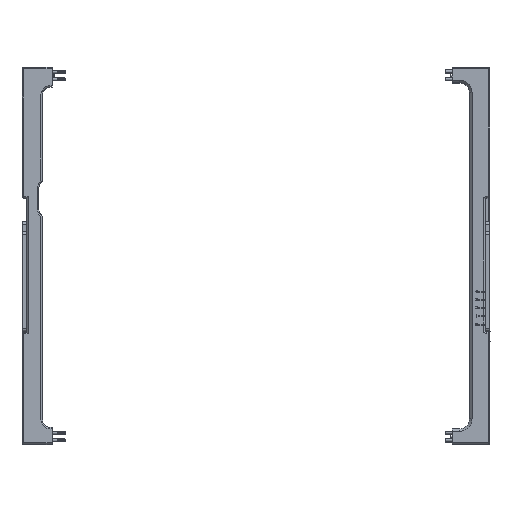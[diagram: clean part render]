
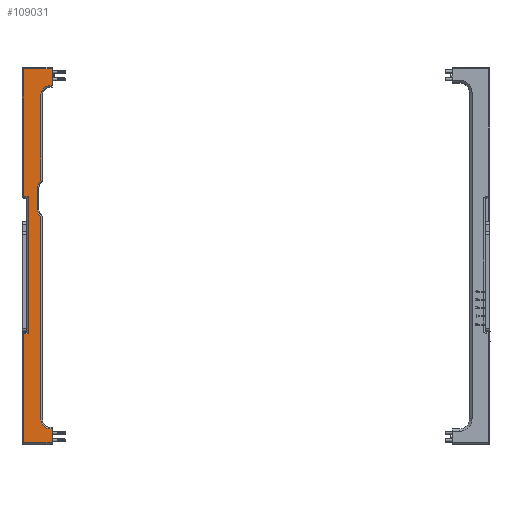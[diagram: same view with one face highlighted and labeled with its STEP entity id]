
A CAD part, top view. The second image highlights one B-rep face of the part: STEP entity #109031.
In plain terms, the highlighted planar face has unit normal (0, 0, 1).
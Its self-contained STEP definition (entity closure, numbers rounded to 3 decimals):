
#57192=DIRECTION('',(0.,1.,0.));
#57193=VECTOR('',#57192,28.7);
#57194=CARTESIAN_POINT('',(-410.5,-770.4,92.43));
#57195=LINE('',#57194,#57193);
#57726=DIRECTION('',(0.,1.,0.));
#57727=VECTOR('',#57726,33.7);
#57728=CARTESIAN_POINT('',(-410.5,-50.7,92.43));
#57729=LINE('',#57728,#57727);
#57826=DIRECTION('',(1.,0.,0.));
#57827=VECTOR('',#57826,4.5);
#57828=CARTESIAN_POINT('',(-415.,-50.7,
92.43));
#57829=LINE('',#57828,#57827);
#57830=CARTESIAN_POINT('',(-415.,-68.7,92.43));
#57831=DIRECTION('',(0.,0.,-1.));
#57832=DIRECTION('',(-1.,0.,0.));
#57833=AXIS2_PLACEMENT_3D('',#57830,#57831,#57832);
#57835=DIRECTION('',(0.,1.,0.));
#57836=VECTOR('',#57835,172.49);
#57837=CARTESIAN_POINT('',(-433.,-241.19,
92.43));
#57838=LINE('',#57837,#57836);
#57839=CARTESIAN_POINT('',(-435.,-241.19,92.43));
#57840=DIRECTION('',(0.,0.,1.));
#57841=DIRECTION('',(0.65,-0.76,0.));
#57842=AXIS2_PLACEMENT_3D('',#57839,#57840,#57841);
#57844=CARTESIAN_POINT('',(-422.,-256.389,92.43));
#57845=DIRECTION('',(0.,0.,-1.));
#57846=DIRECTION('',(-1.,0.,0.));
#57847=AXIS2_PLACEMENT_3D('',#57844,#57845,#57846);
#57849=DIRECTION('',(0.,1.,0.));
#57850=VECTOR('',#57849,44.623);
#57851=CARTESIAN_POINT('',(-440.,-301.011,
92.43));
#57852=LINE('',#57851,#57850);
#57853=CARTESIAN_POINT('',(-422.,-301.011,92.43));
#57854=DIRECTION('',(0.,0.,-1.));
#57855=DIRECTION('',(-0.65,-0.76,0.));
#57856=AXIS2_PLACEMENT_3D('',#57853,#57854,#57855);
#57858=CARTESIAN_POINT('',(-435.,-316.21,92.43));
#57859=DIRECTION('',(0.,0.,1.));
#57860=DIRECTION('',(1.,0.,0.));
#57861=AXIS2_PLACEMENT_3D('',#57858,#57859,#57860);
#57863=DIRECTION('',(0.,1.,0.));
#57864=VECTOR('',#57863,407.49);
#57865=CARTESIAN_POINT('',(-433.,-723.7,
92.43));
#57866=LINE('',#57865,#57864);
#57867=CARTESIAN_POINT('',(-415.,-723.7,92.43));
#57868=DIRECTION('',(0.,0.,-1.));
#57869=DIRECTION('',(0.,-1.,0.));
#57870=AXIS2_PLACEMENT_3D('',#57867,#57868,#57869);
#57872=DIRECTION('',(-1.,0.,0.));
#57873=VECTOR('',#57872,4.5);
#57874=CARTESIAN_POINT('',(-410.5,-741.7,92.43));
#57875=LINE('',#57874,#57873);
#57876=DIRECTION('',(1.,0.,0.));
#57877=VECTOR('',#57876,55.7);
#57878=CARTESIAN_POINT('',(-466.2,-770.4,
92.43));
#57879=LINE('',#57878,#57877);
#57880=CARTESIAN_POINT('',(-466.2,-768.4,92.43));
#57881=DIRECTION('',(0.,0.,1.));
#57882=DIRECTION('',(-1.,0.,0.));
#57883=AXIS2_PLACEMENT_3D('',#57880,#57881,#57882);
#57885=DIRECTION('',(0.,-1.,0.));
#57886=VECTOR('',#57885,216.05);
#57887=CARTESIAN_POINT('',(-468.2,-552.35,
92.43));
#57888=LINE('',#57887,#57886);
#57889=CARTESIAN_POINT('',(-466.2,-552.35,92.43));
#57890=DIRECTION('',(0.,0.,1.));
#57891=DIRECTION('',(0.,1.,0.));
#57892=AXIS2_PLACEMENT_3D('',#57889,#57890,#57891);
#57894=DIRECTION('',(-1.,0.,0.));
#57895=VECTOR('',#57894,8.);
#57896=CARTESIAN_POINT('',(-458.2,-550.35,92.43));
#57897=LINE('',#57896,#57895);
#57898=DIRECTION('',(0.,-1.,0.));
#57899=VECTOR('',#57898,276.);
#57900=CARTESIAN_POINT('',(-458.2,-274.35,92.43));
#57901=LINE('',#57900,#57899);
#57902=DIRECTION('',(-1.,0.,0.));
#57903=VECTOR('',#57902,8.);
#57904=CARTESIAN_POINT('',(-458.2,-274.35,92.43));
#57905=LINE('',#57904,#57903);
#57906=CARTESIAN_POINT('',(-466.2,-272.35,92.43));
#57907=DIRECTION('',(0.,0.,-1.));
#57908=DIRECTION('',(0.,-1.,0.));
#57909=AXIS2_PLACEMENT_3D('',#57906,#57907,#57908);
#57911=DIRECTION('',(0.,1.,0.));
#57912=VECTOR('',#57911,253.35);
#57913=CARTESIAN_POINT('',(-468.2,-272.35,
92.43));
#57914=LINE('',#57913,#57912);
#57915=CARTESIAN_POINT('',(-466.2,-19.,92.43));
#57916=DIRECTION('',(0.,0.,-1.));
#57917=DIRECTION('',(-1.,0.,0.));
#57918=AXIS2_PLACEMENT_3D('',#57915,#57916,#57917);
#57920=DIRECTION('',(1.,0.,0.));
#57921=VECTOR('',#57920,55.7);
#57922=CARTESIAN_POINT('',(-466.2,-17.,
92.43));
#57923=LINE('',#57922,#57921);
#86729=CARTESIAN_POINT('',(-458.2,-274.35,92.43));
#86730=CARTESIAN_POINT('',(-458.2,-550.35,92.43));
#86731=VERTEX_POINT('',#86729);
#86732=VERTEX_POINT('',#86730);
#86737=CARTESIAN_POINT('',(-466.2,-550.35,
92.43));
#86738=VERTEX_POINT('',#86737);
#86743=CARTESIAN_POINT('',(-466.2,-17.,
92.43));
#86744=CARTESIAN_POINT('',(-410.5,-17.,92.43));
#86745=VERTEX_POINT('',#86743);
#86746=VERTEX_POINT('',#86744);
#86751=CARTESIAN_POINT('',(-468.2,-272.35,
92.43));
#86752=CARTESIAN_POINT('',(-468.2,-19.,
92.43));
#86753=VERTEX_POINT('',#86751);
#86754=VERTEX_POINT('',#86752);
#86807=CARTESIAN_POINT('',(-466.2,-274.35,
92.43));
#86808=VERTEX_POINT('',#86807);
#87609=CARTESIAN_POINT('',(-410.5,-770.4,92.43));
#87610=VERTEX_POINT('',#87609);
#87611=CARTESIAN_POINT('',(-466.2,-770.4,
92.43));
#87612=VERTEX_POINT('',#87611);
#87613=CARTESIAN_POINT('',(-468.2,-768.4,92.43));
#87614=VERTEX_POINT('',#87613);
#87615=CARTESIAN_POINT('',(-468.2,-552.35,
92.43));
#87616=VERTEX_POINT('',#87615);
#87665=CARTESIAN_POINT('',(-410.5,-50.7,92.43));
#87667=VERTEX_POINT('',#87665);
#87671=CARTESIAN_POINT('',(-415.,-50.7,
92.43));
#87672=VERTEX_POINT('',#87671);
#87673=CARTESIAN_POINT('',(-433.,-68.7,92.43));
#87674=VERTEX_POINT('',#87673);
#87677=CARTESIAN_POINT('',(-433.,-241.19,
92.43));
#87678=VERTEX_POINT('',#87677);
#87681=CARTESIAN_POINT('',(-433.7,-242.71,92.43));
#87682=VERTEX_POINT('',#87681);
#87685=CARTESIAN_POINT('',(-440.,-256.389,92.43));
#87686=VERTEX_POINT('',#87685);
#87689=CARTESIAN_POINT('',(-440.,-301.011,
92.43));
#87690=VERTEX_POINT('',#87689);
#87693=CARTESIAN_POINT('',(-433.7,-314.69,92.43));
#87694=VERTEX_POINT('',#87693);
#87697=CARTESIAN_POINT('',(-433.,-316.21,92.43));
#87698=VERTEX_POINT('',#87697);
#87701=CARTESIAN_POINT('',(-433.,-723.7,
92.43));
#87702=VERTEX_POINT('',#87701);
#87705=CARTESIAN_POINT('',(-415.,-741.7,92.43));
#87706=VERTEX_POINT('',#87705);
#87710=CARTESIAN_POINT('',(-410.5,-741.7,92.43));
#87712=VERTEX_POINT('',#87710);
#108983=CARTESIAN_POINT('',(-471.2,-773.4,92.43));
#108984=DIRECTION('',(0.,0.,1.));
#108985=DIRECTION('',(1.,0.,0.));
#108986=AXIS2_PLACEMENT_3D('',#108983,#108984,#108985);
#108987=PLANE('',#108986);
#108989=ORIENTED_EDGE('',*,*,#108988,.F.);
#108991=ORIENTED_EDGE('',*,*,#108990,.F.);
#108993=ORIENTED_EDGE('',*,*,#108992,.F.);
#108995=ORIENTED_EDGE('',*,*,#108994,.F.);
#108997=ORIENTED_EDGE('',*,*,#108996,.F.);
#108999=ORIENTED_EDGE('',*,*,#108998,.F.);
#109001=ORIENTED_EDGE('',*,*,#109000,.F.);
#109003=ORIENTED_EDGE('',*,*,#109002,.F.);
#109005=ORIENTED_EDGE('',*,*,#109004,.F.);
#109007=ORIENTED_EDGE('',*,*,#109006,.F.);
#109008=ORIENTED_EDGE('',*,*,#108975,.F.);
#109009=ORIENTED_EDGE('',*,*,#108120,.F.);
#109011=ORIENTED_EDGE('',*,*,#109010,.F.);
#109013=ORIENTED_EDGE('',*,*,#109012,.F.);
#109015=ORIENTED_EDGE('',*,*,#109014,.F.);
#109017=ORIENTED_EDGE('',*,*,#109016,.F.);
#109018=ORIENTED_EDGE('',*,*,#108503,.F.);
#109019=ORIENTED_EDGE('',*,*,#108520,.F.);
#109020=ORIENTED_EDGE('',*,*,#108615,.T.);
#109021=ORIENTED_EDGE('',*,*,#108630,.T.);
#109023=ORIENTED_EDGE('',*,*,#109022,.T.);
#109025=ORIENTED_EDGE('',*,*,#109024,.T.);
#109027=ORIENTED_EDGE('',*,*,#109026,.T.);
#109028=ORIENTED_EDGE('',*,*,#108773,.F.);
#109029=EDGE_LOOP('',(#108989,#108991,#108993,#108995,#108997,#108999,#109001,
#109003,#109005,#109007,#109008,#109009,#109011,#109013,#109015,#109017,#109018,
#109019,#109020,#109021,#109023,#109025,#109027,#109028));
#109030=FACE_OUTER_BOUND('',#109029,.F.);
#57834=CIRCLE('',#57833,18.);
#57843=CIRCLE('',#57842,2.);
#57848=CIRCLE('',#57847,18.);
#57857=CIRCLE('',#57856,18.);
#57862=CIRCLE('',#57861,2.);
#57871=CIRCLE('',#57870,18.);
#57884=CIRCLE('',#57883,2.);
#57893=CIRCLE('',#57892,2.);
#57910=CIRCLE('',#57909,2.);
#57919=CIRCLE('',#57918,2.);
#108120=EDGE_CURVE('',#87610,#87712,#57195,.T.);
#108503=EDGE_CURVE('',#86732,#86738,#57897,.T.);
#108520=EDGE_CURVE('',#86731,#86732,#57901,.T.);
#108615=EDGE_CURVE('',#86731,#86808,#57905,.T.);
#108630=EDGE_CURVE('',#86808,#86753,#57910,.T.);
#108773=EDGE_CURVE('',#87667,#86746,#57729,.T.);
#108975=EDGE_CURVE('',#87712,#87706,#57875,.T.);
#108988=EDGE_CURVE('',#87672,#87667,#57829,.T.);
#108990=EDGE_CURVE('',#87674,#87672,#57834,.T.);
#108992=EDGE_CURVE('',#87678,#87674,#57838,.T.);
#108994=EDGE_CURVE('',#87682,#87678,#57843,.T.);
#108996=EDGE_CURVE('',#87686,#87682,#57848,.T.);
#108998=EDGE_CURVE('',#87690,#87686,#57852,.T.);
#109000=EDGE_CURVE('',#87694,#87690,#57857,.T.);
#109002=EDGE_CURVE('',#87698,#87694,#57862,.T.);
#109004=EDGE_CURVE('',#87702,#87698,#57866,.T.);
#109006=EDGE_CURVE('',#87706,#87702,#57871,.T.);
#109010=EDGE_CURVE('',#87612,#87610,#57879,.T.);
#109012=EDGE_CURVE('',#87614,#87612,#57884,.T.);
#109014=EDGE_CURVE('',#87616,#87614,#57888,.T.);
#109016=EDGE_CURVE('',#86738,#87616,#57893,.T.);
#109022=EDGE_CURVE('',#86753,#86754,#57914,.T.);
#109024=EDGE_CURVE('',#86754,#86745,#57919,.T.);
#109026=EDGE_CURVE('',#86745,#86746,#57923,.T.);
#109031=ADVANCED_FACE('',(#109030),#108987,.T.);
